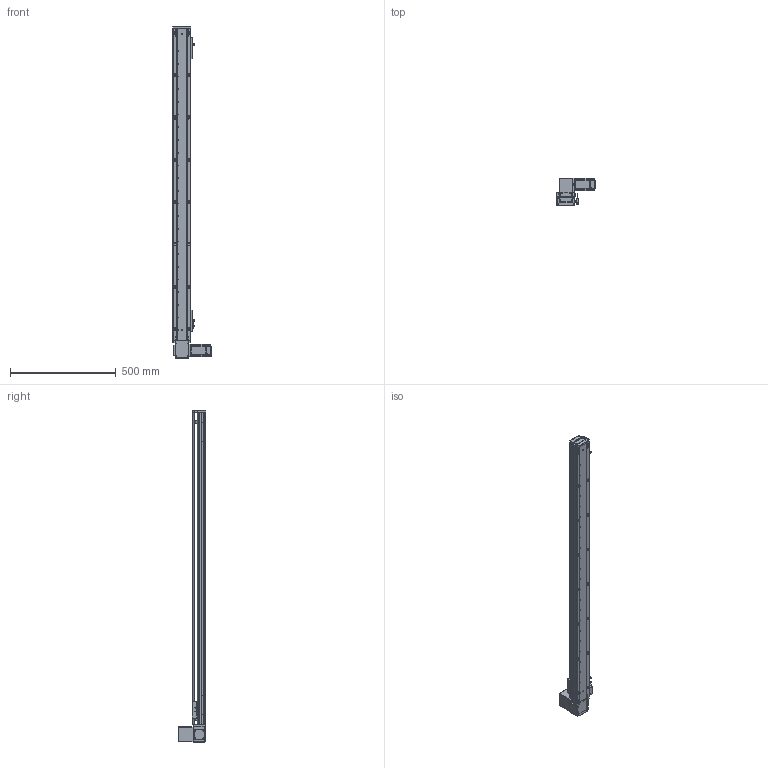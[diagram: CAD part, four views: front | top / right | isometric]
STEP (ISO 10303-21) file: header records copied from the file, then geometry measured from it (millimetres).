
FILE_DESCRIPTION (( 'STEP AP203' ), '1' );
FILE_NAME ('RY80-T-300-UR.SLDASM_1300.step', '2021-03-01T02:27:09', ( '盈信电脑' ), ( '东莞市道滘镇水果街19号' ), 'SwSTEP 2.0', 'SolidWorks 2012', '' );
FILE_SCHEMA (( 'CONFIG_CONTROL_DESIGN' ));
Products named in the file (20): RY80-T-300-UR倰第奻裔啣_1300; RY80-T肮祭謫臏賑輸; RY80-T綴裔啣; RY80-T萇儂假蚾啣; RY80-T-300-UR.SLDASM_1300; RY80-T-M4蹟翐2; RY80-T肮祭謫奻殏俋欶; RY80-T-上下折同步轮盖板; 1; RY100-T粣創揤踡裔; 滅袉蝶18-10; RY80-T粣創揤踡輸; RY80-T翋肮祭謫裔啣; RY80-T-翋肮祭謫釱; RY80-T肮祭湍揤輸2; RY80-T肮祭湍揤輸1; RY80俋离覜茼え; 672嫖萇羲壽假蚾釱; 覜茼ん672; RY80-T-300-UR倰第菁釱_1300
Assembly tree (23 placements, depth 2):
  RY80-T-300-UR.SLDASM_1300
    RY80-T-300-UR倰第菁釱_1300
    RY80-T肮祭謫臏賑輸
    RY80-T-300-UR倰第奻裔啣_1300
    RY80-T綴裔啣
    672嫖萇羲壽假蚾釱  x2
    覜茼ん672  x3
    RY80俋离覜茼え
    RY80-T-翋肮祭謫釱
    RY80-T肮祭湍揤輸1
    RY80-T肮祭湍揤輸2
    RY80-T粣創揤踡輸
    滅袉蝶18-10  x2
    RY100-T粣創揤踡裔
    RY80-T翋肮祭謫裔啣
    RY80-T-上下折同步轮盖板
    1
    RY80-T肮祭謫奻殏俋欶
    RY80-T-M4蹟翐2
    RY80-T萇儂假蚾啣
Bounding box: 180 x 130.5 x 1570 mm (x, y, z)
Volume: 2580622.8 mm3; surface area: 1089186 mm2
Topology: 23 solids, 23 shells, 2533 faces, 6991 edges, 4544 vertices
Faces by surface type: plane 1347, cylinder 989, cone 141, bspline 56
Entity records: 81222 total; most frequent: CARTESIAN_POINT 19726, ORIENTED_EDGE 12626, DIRECTION 11884, EDGE_CURVE 6313, VERTEX_POINT 4148, AXIS2_PLACEMENT_3D 4018, VECTOR 3848, LINE 3848
